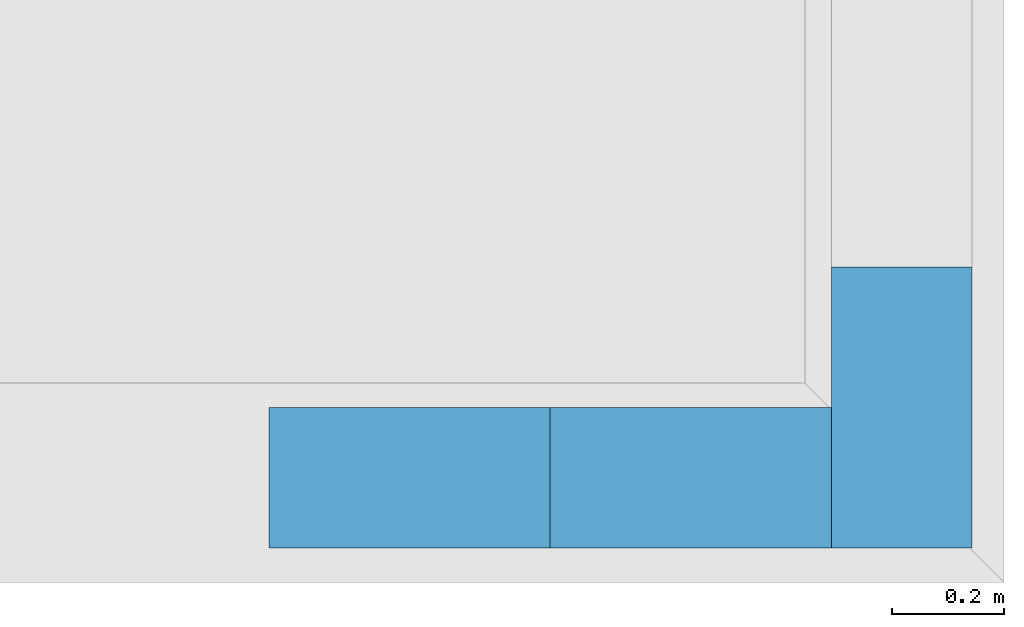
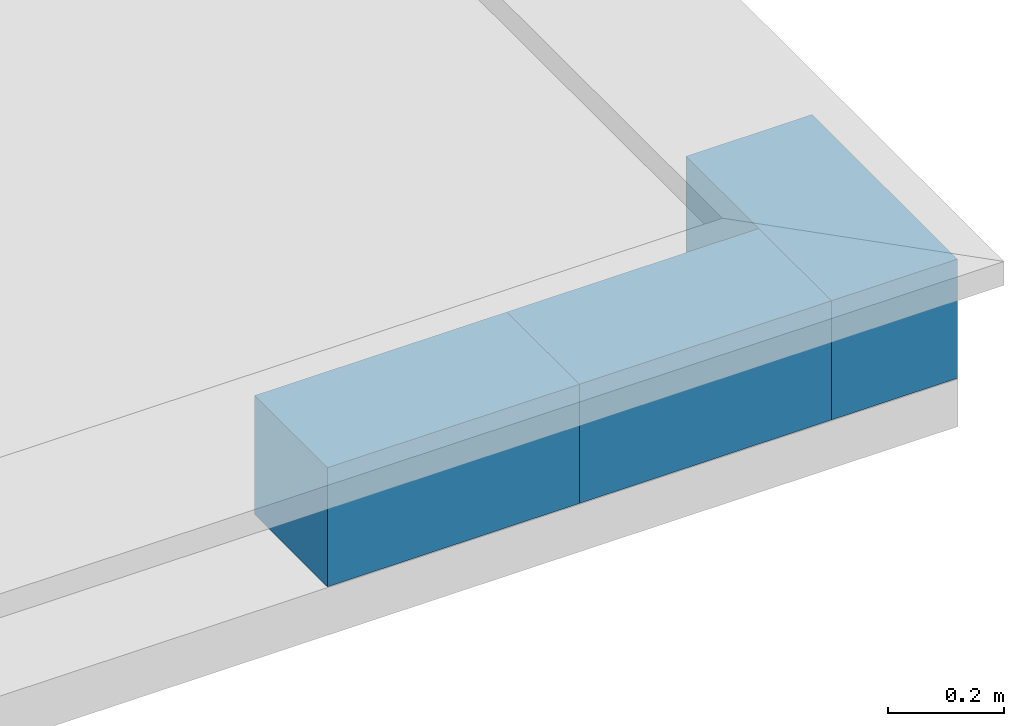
# One storey, part 1 of 3: 3 walls.
"""IFC4 building model written with IfcOpenShell, lengths in centimetres."""

from ifc_helpers import new_model, entity, si_unit, converted_unit, direction, frame, origin, place, context, subcontext, project, spatial, indexed_curve, outline, extrude, material, type_object, element, save


model = new_model("IFC4")

# Units and contexts
model_context = context("Model", 3, precision=0.001, world=origin(), true_north=direction((0.0, 1.0)))
body_context = subcontext(model_context, "Body", "Model", "MODEL_VIEW")
ifc_project = project(units=[si_unit("LENGTHUNIT", "METRE", prefix="CENTI"), si_unit("AREAUNIT", "SQUARE_METRE"), si_unit("VOLUMEUNIT", "CUBIC_METRE"), converted_unit("PLANEANGLEUNIT", "DEGREE", entity("IfcPlaneAngleMeasure", 0.017453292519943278), si_unit("PLANEANGLEUNIT", "RADIAN"), dimensions=[0, 0, 0, 0, 0, 0, 0])], contexts=[model_context])

# Site, building, storey
site_placement = place(None, origin())
site = spatial("IfcSite", under=ifc_project, at=site_placement, Name="Default", CompositionType="ELEMENT")
building_placement = place(site_placement, origin())
building = spatial("IfcBuilding", under=site, at=building_placement, CompositionType="ELEMENT")
storey_placement = place(building_placement, frame((0.0, 0.0, 256.0)))
storey = spatial("IfcBuildingStorey", under=building, at=storey_placement, Name="L01__ABOVE Slab", CompositionType="ELEMENT", Elevation=255.9999999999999)

# Walls
ifc_material = material(Name="Miscellaneous__Timber Block__Triqbriq, X", Category="Miscellaneous")
wall_type = type_object("IfcWallType", Name="Columns : wll_s__TIMBER BLOCK__Triqbriq, Full Width__wp : WS25", PredefinedType="SOLIDWALL", material=ifc_material)
wall_1_placement = place(storey_placement, frame((3156.8289147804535, 2128.5200309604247, 0.0), z_axis=(0.0, 0.0, 1.0), x_axis=(0.0, 1.0, 0.0)))
element("IfcWall", 1, at=wall_1_placement, inside=storey, type_object=wall_type, material=ifc_material, Name="Columns : wll_s__TIMBER BLOCK__Triqbriq, Full Width__wp : WS25", PredefinedType="SOLIDWALL", context=body_context, shape_type="SweptSolid", body=[
    extrude(outline(indexed_curve([(-4.166666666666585, -4.166666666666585), (4.166666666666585, -4.166666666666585), (4.166666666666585, 4.166666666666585), (-4.166666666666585, 4.166666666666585), (-4.166666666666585, -4.166666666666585)], self_intersect=False)), frame((12.500000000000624, -12.500000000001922, 16.666666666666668)), (0.0, 0.0, 1.0), 8.333333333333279),
    extrude(outline(indexed_curve([(-4.166666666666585, -4.166666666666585), (4.166666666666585, -4.166666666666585), (4.166666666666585, 4.166666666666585), (-4.166666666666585, 4.166666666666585), (-4.166666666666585, -4.166666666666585)], self_intersect=False)), frame((37.50000000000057, -12.500000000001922, 16.666666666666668)), (0.0, 0.0, 1.0), 8.333333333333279),
    extrude(outline(indexed_curve([(-4.166666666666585, -4.166666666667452), (4.166666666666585, -4.166666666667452), (4.166666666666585, 4.166666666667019), (-4.166666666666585, 4.166666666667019), (-4.166666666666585, -4.166666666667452)], self_intersect=False)), frame((4.166666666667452, -4.166666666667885, 8.333333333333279)), (0.0, 0.0, 1.0), 8.333333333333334),
    extrude(outline(indexed_curve([(-4.166666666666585, -4.166666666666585), (4.166666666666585, -4.166666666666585), (4.166666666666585, 4.166666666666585), (-4.166666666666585, 4.166666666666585), (-4.166666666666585, -4.166666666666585)], self_intersect=False)), frame((4.166666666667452, -20.833333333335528, 8.333333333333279)), (0.0, 0.0, 1.0), 8.333333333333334),
    extrude(outline(indexed_curve([(-4.166666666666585, -4.166666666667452), (4.166666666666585, -4.166666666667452), (4.166666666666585, 4.166666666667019), (-4.166666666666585, 4.166666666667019), (-4.166666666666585, -4.166666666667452)], self_intersect=False)), frame((45.833333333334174, -4.166666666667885, 8.333333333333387)), (0.0, 0.0, 1.0), 8.333333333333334),
    extrude(outline(indexed_curve([(-4.166666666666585, -4.166666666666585), (4.166666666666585, -4.166666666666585), (4.166666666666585, 4.166666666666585), (-4.166666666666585, 4.166666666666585), (-4.166666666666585, -4.166666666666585)], self_intersect=False)), frame((45.833333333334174, -20.833333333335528, 8.333333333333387)), (0.0, 0.0, 1.0), 8.333333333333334),
    extrude(outline(indexed_curve([(-8.333333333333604, -4.166666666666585), (8.33333333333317, -4.166666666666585), (8.33333333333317, 4.166666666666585), (-8.333333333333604, 4.166666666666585), (-8.333333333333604, -4.166666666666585)], self_intersect=False)), frame((25.0, -20.833333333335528, 8.333333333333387)), (0.0, 0.0, 1.0), 8.333333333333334),
    extrude(outline(indexed_curve([(-8.333333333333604, -4.166666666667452), (8.33333333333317, -4.166666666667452), (8.33333333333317, 4.166666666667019), (-8.333333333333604, 4.166666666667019), (-8.333333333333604, -4.166666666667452)], self_intersect=False)), frame((25.0, -4.166666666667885, 8.333333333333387)), (0.0, 0.0, 1.0), 8.333333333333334),
    extrude(outline(indexed_curve([(-24.999999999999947, -4.166666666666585), (24.999999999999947, -4.166666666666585), (24.999999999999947, 4.166666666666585), (-24.999999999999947, 4.166666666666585), (-24.999999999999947, -4.166666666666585)], self_intersect=False)), frame((25.0, -12.500000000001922, 8.333333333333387)), (0.0, 0.0, 1.0), 8.333333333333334),
    extrude(outline(indexed_curve([(-4.166666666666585, -12.50000000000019), (4.166666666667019, -12.50000000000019), (4.166666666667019, 12.500000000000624), (-4.166666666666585, 12.500000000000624), (-4.166666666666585, -12.50000000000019)], self_intersect=False)), frame((20.83333333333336, -12.500000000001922, 0.0)), (0.0, 0.0, 1.0), 8.333333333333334),
    extrude(outline(indexed_curve([(-4.166666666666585, -12.50000000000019), (4.166666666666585, -12.50000000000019), (4.166666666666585, 12.500000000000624), (-4.166666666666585, 12.500000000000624), (-4.166666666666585, -12.50000000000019)], self_intersect=False)), frame((29.166666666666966, -12.500000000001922, 0.0)), (0.0, 0.0, 1.0), 8.333333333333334),
    extrude(outline(indexed_curve([(-4.166666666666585, -12.50000000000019), (4.166666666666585, -12.50000000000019), (4.166666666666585, 12.500000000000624), (-4.166666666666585, 12.500000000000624), (-4.166666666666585, -12.50000000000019)], self_intersect=False)), frame((4.166666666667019, -12.500000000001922, 0.0)), (0.0, 0.0, 1.0), 8.333333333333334),
    extrude(outline(indexed_curve([(-4.166666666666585, -12.50000000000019), (4.166666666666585, -12.50000000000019), (4.166666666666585, 12.500000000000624), (-4.166666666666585, 12.500000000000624), (-4.166666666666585, -12.50000000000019)], self_intersect=False)), frame((45.83333333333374, -12.500000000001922, 0.0)), (0.0, 0.0, 1.0), 8.333333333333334),
    extrude(outline(indexed_curve([(-4.166666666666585, -4.166666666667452), (4.166666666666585, -4.166666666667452), (4.166666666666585, 4.166666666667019), (-4.166666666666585, 4.166666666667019), (-4.166666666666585, -4.166666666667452)], self_intersect=False)), frame((12.50000000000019, -4.166666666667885, 0.0)), (0.0, 0.0, 1.0), 25.0),
    extrude(outline(indexed_curve([(-4.166666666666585, -4.166666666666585), (4.166666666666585, -4.166666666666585), (4.166666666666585, 4.166666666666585), (-4.166666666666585, 4.166666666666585), (-4.166666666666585, -4.166666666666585)], self_intersect=False)), frame((12.50000000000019, -20.833333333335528, 0.0)), (0.0, 0.0, 1.0), 25.0),
    extrude(outline(indexed_curve([(-4.166666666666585, -4.166666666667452), (4.166666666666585, -4.166666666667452), (4.166666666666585, 4.166666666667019), (-4.166666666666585, 4.166666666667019), (-4.166666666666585, -4.166666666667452)], self_intersect=False)), frame((37.500000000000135, -4.166666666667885, 0.0)), (0.0, 0.0, 1.0), 25.0),
    extrude(outline(indexed_curve([(-4.166666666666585, -4.166666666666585), (4.166666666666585, -4.166666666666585), (4.166666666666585, 4.166666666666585), (-4.166666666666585, 4.166666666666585), (-4.166666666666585, -4.166666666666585)], self_intersect=False)), frame((37.500000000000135, -20.833333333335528, 0.0)), (0.0, 0.0, 1.0), 25.0),
    extrude(outline(indexed_curve([(-4.166666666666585, -12.50000000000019), (4.166666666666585, -12.50000000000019), (4.166666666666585, 12.500000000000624), (-4.166666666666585, 12.500000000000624), (-4.166666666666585, -12.50000000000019)], self_intersect=False)), frame((4.166666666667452, -12.500000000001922, 16.666666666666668)), (0.0, 0.0, 1.0), 8.333333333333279),
    extrude(outline(indexed_curve([(-4.166666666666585, -12.50000000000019), (4.166666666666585, -12.50000000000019), (4.166666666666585, 12.500000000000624), (-4.166666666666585, 12.500000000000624), (-4.166666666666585, -12.50000000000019)], self_intersect=False)), frame((20.833333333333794, -12.500000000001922, 16.666666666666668)), (0.0, 0.0, 1.0), 8.333333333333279),
    extrude(outline(indexed_curve([(-4.166666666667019, -12.50000000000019), (4.166666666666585, -12.50000000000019), (4.166666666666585, 12.500000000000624), (-4.166666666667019, 12.500000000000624), (-4.166666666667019, -12.50000000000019)], self_intersect=False)), frame((29.1666666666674, -12.500000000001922, 16.666666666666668)), (0.0, 0.0, 1.0), 8.333333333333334),
    extrude(outline(indexed_curve([(-4.166666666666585, -12.50000000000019), (4.166666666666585, -12.50000000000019), (4.166666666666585, 12.500000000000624), (-4.166666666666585, 12.500000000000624), (-4.166666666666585, -12.50000000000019)], self_intersect=False)), frame((45.833333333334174, -12.500000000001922, 16.666666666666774)), (0.0, 0.0, 1.0), 8.333333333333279),
])
wall_2_placement = place(storey_placement, frame((3056.8289147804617, 2128.5200309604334, 0.0)))
element("IfcWall", 2, at=wall_2_placement, inside=storey, type_object=wall_type, material=ifc_material, Name="Columns : wll_s__TIMBER BLOCK__Triqbriq, Full Width__wp : WS25", PredefinedType="SOLIDWALL", context=body_context, shape_type="SweptSolid", body=[
    extrude(outline(indexed_curve([(-4.166666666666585, -4.166666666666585), (4.166666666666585, -4.166666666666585), (4.166666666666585, 4.166666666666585), (-4.166666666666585, 4.166666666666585), (-4.166666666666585, -4.166666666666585)], self_intersect=False)), frame((37.50000000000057, 12.500000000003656, 16.666666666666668), z_axis=(0.0, 0.0, 1.0), x_axis=(0.0, 1.0, 0.0)), (0.0, 0.0, 1.0), 8.333333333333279),
    extrude(outline(indexed_curve([(-4.166666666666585, -4.166666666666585), (4.166666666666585, -4.166666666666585), (4.166666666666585, 4.166666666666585), (-4.166666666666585, 4.166666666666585), (-4.166666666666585, -4.166666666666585)], self_intersect=False)), frame((12.500000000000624, 12.500000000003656, 16.666666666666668), z_axis=(0.0, 0.0, 1.0), x_axis=(0.0, 1.0, 0.0)), (0.0, 0.0, 1.0), 8.333333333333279),
    extrude(outline(indexed_curve([(-4.166666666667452, -4.166666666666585), (4.166666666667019, -4.166666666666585), (4.166666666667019, 4.166666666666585), (-4.166666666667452, 4.166666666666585), (-4.166666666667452, -4.166666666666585)], self_intersect=False)), frame((45.83333333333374, 20.83333333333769, 8.333333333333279), z_axis=(0.0, 0.0, 1.0), x_axis=(0.0, 1.0, 0.0)), (0.0, 0.0, 1.0), 8.333333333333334),
    extrude(outline(indexed_curve([(-4.166666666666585, -4.166666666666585), (4.166666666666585, -4.166666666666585), (4.166666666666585, 4.166666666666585), (-4.166666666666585, 4.166666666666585), (-4.166666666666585, -4.166666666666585)], self_intersect=False)), frame((45.83333333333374, 4.166666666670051, 8.333333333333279), z_axis=(0.0, 0.0, 1.0), x_axis=(0.0, 1.0, 0.0)), (0.0, 0.0, 1.0), 8.333333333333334),
    extrude(outline(indexed_curve([(-4.166666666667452, -4.166666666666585), (4.166666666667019, -4.166666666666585), (4.166666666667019, 4.166666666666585), (-4.166666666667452, 4.166666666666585), (-4.166666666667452, -4.166666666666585)], self_intersect=False)), frame((4.166666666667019, 20.83333333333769, 8.333333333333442), z_axis=(0.0, 0.0, 1.0), x_axis=(0.0, 1.0, 0.0)), (0.0, 0.0, 1.0), 8.333333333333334),
    extrude(outline(indexed_curve([(-4.166666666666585, -4.166666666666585), (4.166666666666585, -4.166666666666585), (4.166666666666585, 4.166666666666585), (-4.166666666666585, 4.166666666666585), (-4.166666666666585, -4.166666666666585)], self_intersect=False)), frame((4.166666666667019, 4.166666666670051, 8.333333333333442), z_axis=(0.0, 0.0, 1.0), x_axis=(0.0, 1.0, 0.0)), (0.0, 0.0, 1.0), 8.333333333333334),
    extrude(outline(indexed_curve([(-4.166666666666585, -8.33333333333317), (4.166666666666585, -8.33333333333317), (4.166666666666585, 8.333333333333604), (-4.166666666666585, 8.333333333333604), (-4.166666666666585, -8.33333333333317)], self_intersect=False)), frame((25.0, 4.166666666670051, 8.333333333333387), z_axis=(0.0, 0.0, 1.0), x_axis=(0.0, 1.0, 0.0)), (0.0, 0.0, 1.0), 8.333333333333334),
    extrude(outline(indexed_curve([(-4.166666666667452, -8.33333333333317), (4.166666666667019, -8.33333333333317), (4.166666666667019, 8.333333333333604), (-4.166666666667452, 8.333333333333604), (-4.166666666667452, -8.33333333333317)], self_intersect=False)), frame((25.0, 20.83333333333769, 8.333333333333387), z_axis=(0.0, 0.0, 1.0), x_axis=(0.0, 1.0, 0.0)), (0.0, 0.0, 1.0), 8.333333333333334),
    extrude(outline(indexed_curve([(-4.166666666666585, -25.00000000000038), (4.166666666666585, -25.00000000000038), (4.166666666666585, 24.999999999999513), (-4.166666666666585, 24.999999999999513), (-4.166666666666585, -25.00000000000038)], self_intersect=False)), frame((25.0, 12.500000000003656, 8.333333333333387), z_axis=(0.0, 0.0, 1.0), x_axis=(0.0, 1.0, 0.0)), (0.0, 0.0, 1.0), 8.333333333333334),
    extrude(outline(indexed_curve([(-12.50000000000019, -4.166666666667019), (12.500000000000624, -4.166666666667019), (12.500000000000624, 4.166666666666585), (-12.50000000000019, 4.166666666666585), (-12.50000000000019, -4.166666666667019)], self_intersect=False)), frame((29.1666666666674, 12.500000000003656, 0.0), z_axis=(0.0, 0.0, 1.0), x_axis=(0.0, 1.0, 0.0)), (0.0, 0.0, 1.0), 8.333333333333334),
    extrude(outline(indexed_curve([(-12.50000000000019, -4.166666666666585), (12.500000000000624, -4.166666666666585), (12.500000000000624, 4.166666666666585), (-12.50000000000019, 4.166666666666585), (-12.50000000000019, -4.166666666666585)], self_intersect=False)), frame((20.833333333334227, 12.500000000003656, 0.0), z_axis=(0.0, 0.0, 1.0), x_axis=(0.0, 1.0, 0.0)), (0.0, 0.0, 1.0), 8.333333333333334),
    extrude(outline(indexed_curve([(-12.50000000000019, -4.166666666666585), (12.500000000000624, -4.166666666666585), (12.500000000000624, 4.166666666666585), (-12.50000000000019, 4.166666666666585), (-12.50000000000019, -4.166666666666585)], self_intersect=False)), frame((45.833333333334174, 12.500000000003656, 0.0), z_axis=(0.0, 0.0, 1.0), x_axis=(0.0, 1.0, 0.0)), (0.0, 0.0, 1.0), 8.333333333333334),
    extrude(outline(indexed_curve([(-12.50000000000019, -4.166666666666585), (12.500000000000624, -4.166666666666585), (12.500000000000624, 4.166666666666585), (-12.50000000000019, 4.166666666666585), (-12.50000000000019, -4.166666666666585)], self_intersect=False)), frame((4.166666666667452, 12.500000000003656, 0.0), z_axis=(0.0, 0.0, 1.0), x_axis=(0.0, 1.0, 0.0)), (0.0, 0.0, 1.0), 8.333333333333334),
    extrude(outline(indexed_curve([(-4.166666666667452, -4.166666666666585), (4.166666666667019, -4.166666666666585), (4.166666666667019, 4.166666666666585), (-4.166666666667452, 4.166666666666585), (-4.166666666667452, -4.166666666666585)], self_intersect=False)), frame((37.500000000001, 20.83333333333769, 0.0), z_axis=(0.0, 0.0, 1.0), x_axis=(0.0, 1.0, 0.0)), (0.0, 0.0, 1.0), 25.0),
    extrude(outline(indexed_curve([(-4.166666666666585, -4.166666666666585), (4.166666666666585, -4.166666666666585), (4.166666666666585, 4.166666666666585), (-4.166666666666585, 4.166666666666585), (-4.166666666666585, -4.166666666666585)], self_intersect=False)), frame((37.500000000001, 4.166666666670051, 0.0), z_axis=(0.0, 0.0, 1.0), x_axis=(0.0, 1.0, 0.0)), (0.0, 0.0, 1.0), 25.0),
    extrude(outline(indexed_curve([(-4.166666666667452, -4.166666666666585), (4.166666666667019, -4.166666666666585), (4.166666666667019, 4.166666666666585), (-4.166666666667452, 4.166666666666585), (-4.166666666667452, -4.166666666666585)], self_intersect=False)), frame((12.500000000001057, 20.83333333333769, 0.0), z_axis=(0.0, 0.0, 1.0), x_axis=(0.0, 1.0, 0.0)), (0.0, 0.0, 1.0), 25.0),
    extrude(outline(indexed_curve([(-4.166666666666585, -4.166666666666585), (4.166666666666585, -4.166666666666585), (4.166666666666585, 4.166666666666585), (-4.166666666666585, 4.166666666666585), (-4.166666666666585, -4.166666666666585)], self_intersect=False)), frame((12.500000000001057, 4.166666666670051, 0.0), z_axis=(0.0, 0.0, 1.0), x_axis=(0.0, 1.0, 0.0)), (0.0, 0.0, 1.0), 25.0),
    extrude(outline(indexed_curve([(-12.50000000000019, -4.166666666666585), (12.500000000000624, -4.166666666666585), (12.500000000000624, 4.166666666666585), (-12.50000000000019, 4.166666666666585), (-12.50000000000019, -4.166666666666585)], self_intersect=False)), frame((45.83333333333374, 12.500000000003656, 16.666666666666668), z_axis=(0.0, 0.0, 1.0), x_axis=(0.0, 1.0, 0.0)), (0.0, 0.0, 1.0), 8.333333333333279),
    extrude(outline(indexed_curve([(-12.50000000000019, -4.166666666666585), (12.500000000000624, -4.166666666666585), (12.500000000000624, 4.166666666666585), (-12.50000000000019, 4.166666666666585), (-12.50000000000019, -4.166666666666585)], self_intersect=False)), frame((29.1666666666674, 12.500000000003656, 16.666666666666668), z_axis=(0.0, 0.0, 1.0), x_axis=(0.0, 1.0, 0.0)), (0.0, 0.0, 1.0), 8.333333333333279),
    extrude(outline(indexed_curve([(-12.50000000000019, -4.166666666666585), (12.500000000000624, -4.166666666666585), (12.500000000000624, 4.166666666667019), (-12.50000000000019, 4.166666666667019), (-12.50000000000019, -4.166666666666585)], self_intersect=False)), frame((20.833333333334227, 12.500000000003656, 16.666666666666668), z_axis=(0.0, 0.0, 1.0), x_axis=(0.0, 1.0, 0.0)), (0.0, 0.0, 1.0), 8.333333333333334),
    extrude(outline(indexed_curve([(-12.50000000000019, -4.166666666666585), (12.500000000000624, -4.166666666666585), (12.500000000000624, 4.166666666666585), (-12.50000000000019, 4.166666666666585), (-12.50000000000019, -4.166666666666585)], self_intersect=False)), frame((4.166666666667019, 12.500000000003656, 16.666666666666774), z_axis=(0.0, 0.0, 1.0), x_axis=(0.0, 1.0, 0.0)), (0.0, 0.0, 1.0), 8.333333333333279),
])
wall_3_placement = place(storey_placement, frame((3106.828914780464, 2128.5200309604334, 0.0)))
element("IfcWall", 3, at=wall_3_placement, inside=storey, type_object=wall_type, material=ifc_material, Name="Columns : wll_s__TIMBER BLOCK__Triqbriq, Full Width__wp : WS25", PredefinedType="SOLIDWALL", context=body_context, shape_type="SweptSolid", body=[
    extrude(outline(indexed_curve([(-4.166666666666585, -4.166666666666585), (4.166666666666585, -4.166666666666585), (4.166666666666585, 4.166666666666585), (-4.166666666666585, 4.166666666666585), (-4.166666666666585, -4.166666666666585)], self_intersect=False)), frame((37.50000000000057, 12.500000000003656, 16.666666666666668), z_axis=(0.0, 0.0, 1.0), x_axis=(0.0, 1.0, 0.0)), (0.0, 0.0, 1.0), 8.333333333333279),
    extrude(outline(indexed_curve([(-4.166666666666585, -4.166666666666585), (4.166666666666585, -4.166666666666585), (4.166666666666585, 4.166666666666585), (-4.166666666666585, 4.166666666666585), (-4.166666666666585, -4.166666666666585)], self_intersect=False)), frame((12.500000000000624, 12.500000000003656, 16.666666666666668), z_axis=(0.0, 0.0, 1.0), x_axis=(0.0, 1.0, 0.0)), (0.0, 0.0, 1.0), 8.333333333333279),
    extrude(outline(indexed_curve([(-4.166666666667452, -4.166666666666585), (4.166666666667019, -4.166666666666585), (4.166666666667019, 4.166666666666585), (-4.166666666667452, 4.166666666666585), (-4.166666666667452, -4.166666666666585)], self_intersect=False)), frame((45.83333333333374, 20.83333333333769, 8.333333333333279), z_axis=(0.0, 0.0, 1.0), x_axis=(0.0, 1.0, 0.0)), (0.0, 0.0, 1.0), 8.333333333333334),
    extrude(outline(indexed_curve([(-4.166666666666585, -4.166666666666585), (4.166666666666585, -4.166666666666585), (4.166666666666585, 4.166666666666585), (-4.166666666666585, 4.166666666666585), (-4.166666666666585, -4.166666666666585)], self_intersect=False)), frame((45.83333333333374, 4.166666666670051, 8.333333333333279), z_axis=(0.0, 0.0, 1.0), x_axis=(0.0, 1.0, 0.0)), (0.0, 0.0, 1.0), 8.333333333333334),
    extrude(outline(indexed_curve([(-4.166666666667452, -4.166666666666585), (4.166666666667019, -4.166666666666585), (4.166666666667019, 4.166666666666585), (-4.166666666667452, 4.166666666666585), (-4.166666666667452, -4.166666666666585)], self_intersect=False)), frame((4.166666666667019, 20.83333333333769, 8.333333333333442), z_axis=(0.0, 0.0, 1.0), x_axis=(0.0, 1.0, 0.0)), (0.0, 0.0, 1.0), 8.333333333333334),
    extrude(outline(indexed_curve([(-4.166666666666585, -4.166666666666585), (4.166666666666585, -4.166666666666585), (4.166666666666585, 4.166666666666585), (-4.166666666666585, 4.166666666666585), (-4.166666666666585, -4.166666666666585)], self_intersect=False)), frame((4.166666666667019, 4.166666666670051, 8.333333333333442), z_axis=(0.0, 0.0, 1.0), x_axis=(0.0, 1.0, 0.0)), (0.0, 0.0, 1.0), 8.333333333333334),
    extrude(outline(indexed_curve([(-4.166666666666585, -8.33333333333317), (4.166666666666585, -8.33333333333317), (4.166666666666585, 8.333333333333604), (-4.166666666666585, 8.333333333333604), (-4.166666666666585, -8.33333333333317)], self_intersect=False)), frame((25.0, 4.166666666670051, 8.333333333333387), z_axis=(0.0, 0.0, 1.0), x_axis=(0.0, 1.0, 0.0)), (0.0, 0.0, 1.0), 8.333333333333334),
    extrude(outline(indexed_curve([(-4.166666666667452, -8.33333333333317), (4.166666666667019, -8.33333333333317), (4.166666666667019, 8.333333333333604), (-4.166666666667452, 8.333333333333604), (-4.166666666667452, -8.33333333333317)], self_intersect=False)), frame((25.0, 20.83333333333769, 8.333333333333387), z_axis=(0.0, 0.0, 1.0), x_axis=(0.0, 1.0, 0.0)), (0.0, 0.0, 1.0), 8.333333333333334),
    extrude(outline(indexed_curve([(-4.166666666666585, -25.00000000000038), (4.166666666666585, -25.00000000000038), (4.166666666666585, 24.999999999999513), (-4.166666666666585, 24.999999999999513), (-4.166666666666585, -25.00000000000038)], self_intersect=False)), frame((25.0, 12.500000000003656, 8.333333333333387), z_axis=(0.0, 0.0, 1.0), x_axis=(0.0, 1.0, 0.0)), (0.0, 0.0, 1.0), 8.333333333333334),
    extrude(outline(indexed_curve([(-12.50000000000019, -4.166666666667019), (12.500000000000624, -4.166666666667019), (12.500000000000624, 4.166666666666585), (-12.50000000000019, 4.166666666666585), (-12.50000000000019, -4.166666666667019)], self_intersect=False)), frame((29.1666666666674, 12.500000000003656, 0.0), z_axis=(0.0, 0.0, 1.0), x_axis=(0.0, 1.0, 0.0)), (0.0, 0.0, 1.0), 8.333333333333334),
    extrude(outline(indexed_curve([(-12.50000000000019, -4.166666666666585), (12.500000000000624, -4.166666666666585), (12.500000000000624, 4.166666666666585), (-12.50000000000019, 4.166666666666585), (-12.50000000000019, -4.166666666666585)], self_intersect=False)), frame((20.833333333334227, 12.500000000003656, 0.0), z_axis=(0.0, 0.0, 1.0), x_axis=(0.0, 1.0, 0.0)), (0.0, 0.0, 1.0), 8.333333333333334),
    extrude(outline(indexed_curve([(-12.50000000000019, -4.166666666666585), (12.500000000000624, -4.166666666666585), (12.500000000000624, 4.166666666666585), (-12.50000000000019, 4.166666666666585), (-12.50000000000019, -4.166666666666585)], self_intersect=False)), frame((45.833333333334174, 12.500000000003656, 0.0), z_axis=(0.0, 0.0, 1.0), x_axis=(0.0, 1.0, 0.0)), (0.0, 0.0, 1.0), 8.333333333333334),
    extrude(outline(indexed_curve([(-12.50000000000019, -4.166666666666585), (12.500000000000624, -4.166666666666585), (12.500000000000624, 4.166666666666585), (-12.50000000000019, 4.166666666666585), (-12.50000000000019, -4.166666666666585)], self_intersect=False)), frame((4.166666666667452, 12.500000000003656, 0.0), z_axis=(0.0, 0.0, 1.0), x_axis=(0.0, 1.0, 0.0)), (0.0, 0.0, 1.0), 8.333333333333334),
    extrude(outline(indexed_curve([(-4.166666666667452, -4.166666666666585), (4.166666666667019, -4.166666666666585), (4.166666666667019, 4.166666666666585), (-4.166666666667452, 4.166666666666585), (-4.166666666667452, -4.166666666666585)], self_intersect=False)), frame((37.500000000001, 20.83333333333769, 0.0), z_axis=(0.0, 0.0, 1.0), x_axis=(0.0, 1.0, 0.0)), (0.0, 0.0, 1.0), 25.0),
    extrude(outline(indexed_curve([(-4.166666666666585, -4.166666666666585), (4.166666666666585, -4.166666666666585), (4.166666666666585, 4.166666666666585), (-4.166666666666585, 4.166666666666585), (-4.166666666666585, -4.166666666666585)], self_intersect=False)), frame((37.500000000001, 4.166666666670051, 0.0), z_axis=(0.0, 0.0, 1.0), x_axis=(0.0, 1.0, 0.0)), (0.0, 0.0, 1.0), 25.0),
    extrude(outline(indexed_curve([(-4.166666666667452, -4.166666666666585), (4.166666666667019, -4.166666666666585), (4.166666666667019, 4.166666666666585), (-4.166666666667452, 4.166666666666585), (-4.166666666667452, -4.166666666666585)], self_intersect=False)), frame((12.500000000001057, 20.83333333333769, 0.0), z_axis=(0.0, 0.0, 1.0), x_axis=(0.0, 1.0, 0.0)), (0.0, 0.0, 1.0), 25.0),
    extrude(outline(indexed_curve([(-4.166666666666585, -4.166666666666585), (4.166666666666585, -4.166666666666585), (4.166666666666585, 4.166666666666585), (-4.166666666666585, 4.166666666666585), (-4.166666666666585, -4.166666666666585)], self_intersect=False)), frame((12.500000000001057, 4.166666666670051, 0.0), z_axis=(0.0, 0.0, 1.0), x_axis=(0.0, 1.0, 0.0)), (0.0, 0.0, 1.0), 25.0),
    extrude(outline(indexed_curve([(-12.50000000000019, -4.166666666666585), (12.500000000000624, -4.166666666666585), (12.500000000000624, 4.166666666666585), (-12.50000000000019, 4.166666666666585), (-12.50000000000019, -4.166666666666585)], self_intersect=False)), frame((45.83333333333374, 12.500000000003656, 16.666666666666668), z_axis=(0.0, 0.0, 1.0), x_axis=(0.0, 1.0, 0.0)), (0.0, 0.0, 1.0), 8.333333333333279),
    extrude(outline(indexed_curve([(-12.50000000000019, -4.166666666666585), (12.500000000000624, -4.166666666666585), (12.500000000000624, 4.166666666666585), (-12.50000000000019, 4.166666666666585), (-12.50000000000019, -4.166666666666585)], self_intersect=False)), frame((29.1666666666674, 12.500000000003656, 16.666666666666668), z_axis=(0.0, 0.0, 1.0), x_axis=(0.0, 1.0, 0.0)), (0.0, 0.0, 1.0), 8.333333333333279),
    extrude(outline(indexed_curve([(-12.50000000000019, -4.166666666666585), (12.500000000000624, -4.166666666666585), (12.500000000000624, 4.166666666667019), (-12.50000000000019, 4.166666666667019), (-12.50000000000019, -4.166666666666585)], self_intersect=False)), frame((20.833333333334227, 12.500000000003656, 16.666666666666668), z_axis=(0.0, 0.0, 1.0), x_axis=(0.0, 1.0, 0.0)), (0.0, 0.0, 1.0), 8.333333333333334),
    extrude(outline(indexed_curve([(-12.50000000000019, -4.166666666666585), (12.500000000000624, -4.166666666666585), (12.500000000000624, 4.166666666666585), (-12.50000000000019, 4.166666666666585), (-12.50000000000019, -4.166666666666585)], self_intersect=False)), frame((4.166666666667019, 12.500000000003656, 16.666666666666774), z_axis=(0.0, 0.0, 1.0), x_axis=(0.0, 1.0, 0.0)), (0.0, 0.0, 1.0), 8.333333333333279),
])

save(model, "model.ifc")
